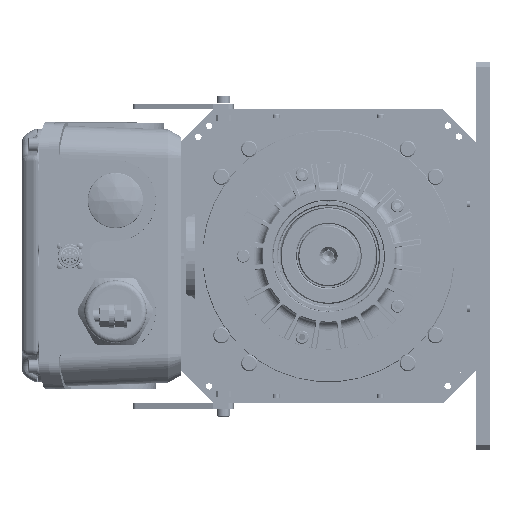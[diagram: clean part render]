
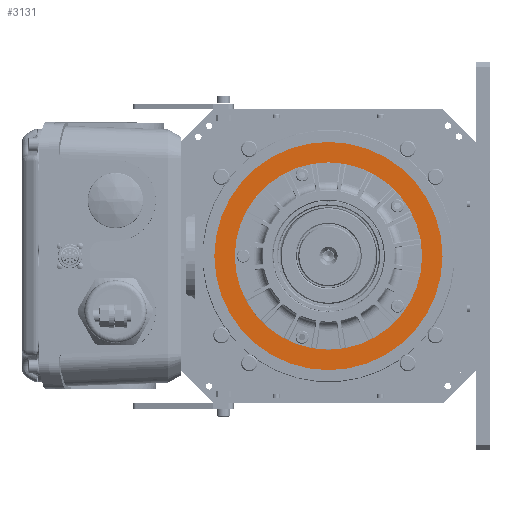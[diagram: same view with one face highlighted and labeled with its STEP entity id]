
A CAD part, left-side view. The second image highlights one B-rep face of the part: STEP entity #3131.
In plain terms, the highlighted planar face has unit normal (-1, 0, 0).
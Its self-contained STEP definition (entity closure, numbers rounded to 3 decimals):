
#1602=CARTESIAN_POINT('',(112.02,0.,0.));
#1603=DIRECTION('',(-1.,0.,0.));
#1604=DIRECTION('',(0.,-1.,0.));
#1605=AXIS2_PLACEMENT_3D('',#1602,#1603,#1604);
#1611=CARTESIAN_POINT('',(112.02,0.,0.));
#1612=DIRECTION('',(1.,0.,0.));
#1613=DIRECTION('',(0.,-1.,0.));
#1614=AXIS2_PLACEMENT_3D('',#1611,#1612,#1613);
#1620=CARTESIAN_POINT('',(112.02,0.,0.));
#1621=DIRECTION('',(-1.,0.,0.));
#1622=DIRECTION('',(0.,-1.,0.));
#1623=AXIS2_PLACEMENT_3D('',#1620,#1621,#1622);
#1625=CARTESIAN_POINT('',(112.02,0.,0.));
#1626=DIRECTION('',(1.,0.,0.));
#1627=DIRECTION('',(0.,-1.,0.));
#1628=AXIS2_PLACEMENT_3D('',#1625,#1626,#1627);
#2727=CARTESIAN_POINT('',(112.02,-92.75,0.));
#2729=VERTEX_POINT('',#2727);
#2731=CARTESIAN_POINT('',(112.02,92.75,0.));
#2733=VERTEX_POINT('',#2731);
#2734=CARTESIAN_POINT('',(112.02,-113.,0.));
#2735=CARTESIAN_POINT('',(112.02,113.,0.));
#2736=VERTEX_POINT('',#2734);
#2737=VERTEX_POINT('',#2735);
#3116=CARTESIAN_POINT('',(112.02,0.,0.));
#3117=DIRECTION('',(-1.,0.,0.));
#3118=DIRECTION('',(0.,-1.,0.));
#3119=AXIS2_PLACEMENT_3D('',#3116,#3117,#3118);
#3120=PLANE('',#3119);
#3121=ORIENTED_EDGE('',*,*,#3110,.T.);
#3122=ORIENTED_EDGE('',*,*,#3096,.F.);
#3123=EDGE_LOOP('',(#3121,#3122));
#3124=FACE_OUTER_BOUND('',#3123,.F.);
#3126=ORIENTED_EDGE('',*,*,#3125,.T.);
#3128=ORIENTED_EDGE('',*,*,#3127,.F.);
#3129=EDGE_LOOP('',(#3126,#3128));
#3130=FACE_BOUND('',#3129,.F.);
#3131=ADVANCED_FACE('',(#3124,#3130),#3120,.T.);
#1606=CIRCLE('',#1605,113.);
#1615=CIRCLE('',#1614,113.);
#1624=CIRCLE('',#1623,92.75);
#1629=CIRCLE('',#1628,92.75);
#3096=EDGE_CURVE('',#2736,#2737,#1606,.T.);
#3110=EDGE_CURVE('',#2736,#2737,#1615,.T.);
#3125=EDGE_CURVE('',#2729,#2733,#1624,.T.);
#3127=EDGE_CURVE('',#2729,#2733,#1629,.T.);
